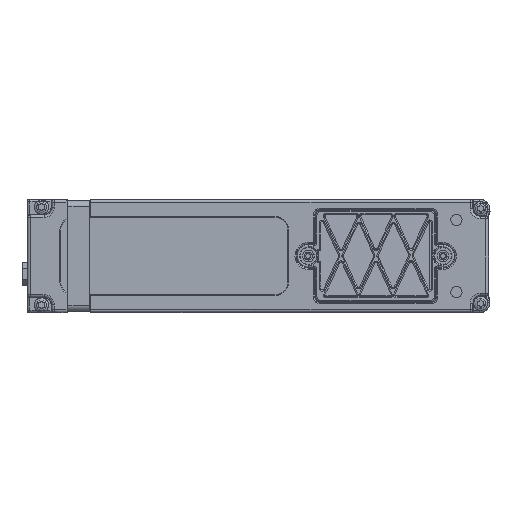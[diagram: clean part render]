
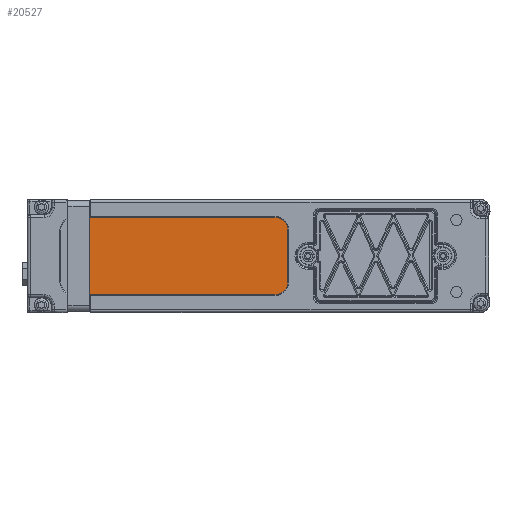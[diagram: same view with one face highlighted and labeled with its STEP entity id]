
A CAD part, front view. The second image highlights one B-rep face of the part: STEP entity #20527.
In plain terms, the highlighted planar face has unit normal (0, -1, 0).
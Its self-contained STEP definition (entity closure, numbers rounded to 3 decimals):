
#8347=ELLIPSE('',#56478,0.3,0.3);
#8348=ELLIPSE('',#56479,0.3,0.3);
#9222=FACE_OUTER_BOUND('',#24762,.T.);
#12623=LINE('',#80976,#16066);
#12624=LINE('',#80980,#16067);
#12625=LINE('',#80984,#16068);
#12626=LINE('',#80985,#16069);
#16066=VECTOR('',#65163,1.);
#16067=VECTOR('',#65168,1.);
#16068=VECTOR('',#65171,1.);
#16069=VECTOR('',#65172,1.);
#18335=PLANE('',#56480);
#20527=ADVANCED_FACE('',(#9222),#18335,.F.);
#24762=EDGE_LOOP('',(#31355,#31356,#31357,#31358,#31359,#31360,#31361,#31362));
#31355=ORIENTED_EDGE('',*,*,#48057,.F.);
#31356=ORIENTED_EDGE('',*,*,#48058,.T.);
#31357=ORIENTED_EDGE('',*,*,#48059,.T.);
#31358=ORIENTED_EDGE('',*,*,#48060,.T.);
#31359=ORIENTED_EDGE('',*,*,#48061,.T.);
#31360=ORIENTED_EDGE('',*,*,#48050,.T.);
#31361=ORIENTED_EDGE('',*,*,#48062,.F.);
#31362=ORIENTED_EDGE('',*,*,#48054,.T.);
#42859=VERTEX_POINT('',#80956);
#42861=VERTEX_POINT('',#80960);
#42863=VERTEX_POINT('',#80965);
#42865=VERTEX_POINT('',#80969);
#42867=VERTEX_POINT('',#80975);
#42868=VERTEX_POINT('',#80979);
#42869=VERTEX_POINT('',#80981);
#42870=VERTEX_POINT('',#80983);
#48050=EDGE_CURVE('',#42859,#42861,#53096,.T.);
#48054=EDGE_CURVE('',#42863,#42865,#53098,.T.);
#48057=EDGE_CURVE('',#42867,#42865,#12623,.T.);
#48058=EDGE_CURVE('',#42867,#42868,#8347,.T.);
#48059=EDGE_CURVE('',#42868,#42869,#12624,.T.);
#48060=EDGE_CURVE('',#42869,#42870,#8348,.T.);
#48061=EDGE_CURVE('',#42870,#42859,#12625,.T.);
#48062=EDGE_CURVE('',#42863,#42861,#12626,.T.);
#53096=CIRCLE('',#56472,5.);
#53098=CIRCLE('',#56475,5.);
#56472=AXIS2_PLACEMENT_3D('',#80961,#65149,#65150);
#56475=AXIS2_PLACEMENT_3D('',#80970,#65157,#65158);
#56478=AXIS2_PLACEMENT_3D('',#80978,#65166,#65167);
#56479=AXIS2_PLACEMENT_3D('',#80982,#65169,#65170);
#56480=AXIS2_PLACEMENT_3D('',#80986,#65173,#65174);
#65149=DIRECTION('',(0.,-1.,0.));
#65150=DIRECTION('',(-1.,0.,0.));
#65157=DIRECTION('',(0.,-1.,0.));
#65158=DIRECTION('',(-1.,0.,0.));
#65163=DIRECTION('',(1.,0.,0.));
#65166=DIRECTION('',(0.,1.,0.));
#65167=DIRECTION('',(0.,0.,1.));
#65168=DIRECTION('',(0.,0.,-1.));
#65169=DIRECTION('',(0.,1.,0.));
#65170=DIRECTION('',(0.,0.,1.));
#65171=DIRECTION('',(1.,0.,0.));
#65172=DIRECTION('',(0.,0.,-1.));
#65173=DIRECTION('',(0.,1.,0.));
#65174=DIRECTION('',(-1.,0.,0.));
#80956=CARTESIAN_POINT('',(-70.35,0.8,-1.001));
#80960=CARTESIAN_POINT('',(-65.35,0.8,4.));
#80961=CARTESIAN_POINT('',(-70.35,0.8,3.999));
#80965=CARTESIAN_POINT('',(-65.35,0.8,24.));
#80969=CARTESIAN_POINT('',(-70.35,0.8,28.999));
#80970=CARTESIAN_POINT('',(-70.35,0.8,23.999));
#80975=CARTESIAN_POINT('',(-141.8,0.8,28.999));
#80976=CARTESIAN_POINT('',(-153.35,0.8,28.999));
#80978=CARTESIAN_POINT('',(-141.8,0.8,29.299));
#80979=CARTESIAN_POINT('',(-142.1,0.8,29.299));
#80980=CARTESIAN_POINT('',(-142.1,0.8,28.999));
#80981=CARTESIAN_POINT('',(-142.1,0.8,-1.301));
#80982=CARTESIAN_POINT('',(-141.8,0.8,-1.301));
#80983=CARTESIAN_POINT('',(-141.8,0.8,-1.001));
#80984=CARTESIAN_POINT('',(-153.35,0.8,-1.001));
#80985=CARTESIAN_POINT('',(-65.35,0.8,29.));
#80986=CARTESIAN_POINT('',(-153.35,0.8,28.999));
